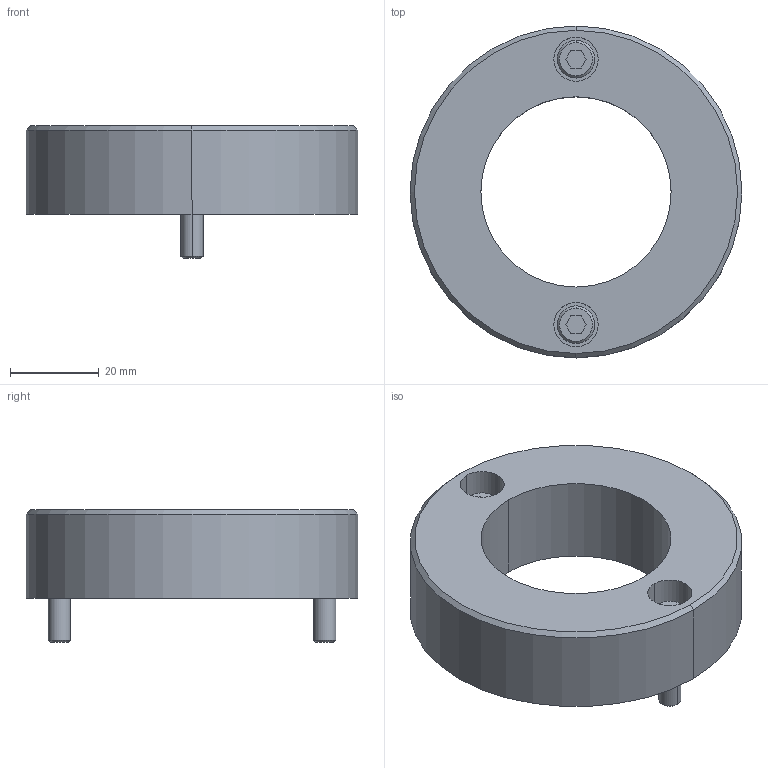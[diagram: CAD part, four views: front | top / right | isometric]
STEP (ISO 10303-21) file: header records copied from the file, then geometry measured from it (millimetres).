
FILE_DESCRIPTION((''),'2;1');
FILE_NAME('','2010-08-30T17:17:19+09:00',('misumi'),(''),'M/STEP i/f 1R2-14','CADmeister v5.1','');
FILE_SCHEMA(('AUTOMOTIVE_DESIGN'));
Length unit declared in the file: millimetre
Products named in the file (1): GEB38-20-R
Bounding box: 75 x 75 x 30 mm (x, y, z)
Volume: 58426.3 mm3; surface area: 15251.9 mm2
Topology: 3 solids, 3 shells, 54 faces, 116 edges, 74 vertices
Faces by surface type: plane 24, cylinder 20, cone 10
Entity records: 1592 total; most frequent: DIRECTION 276, CARTESIAN_POINT 245, ORIENTED_EDGE 232, EDGE_CURVE 116, AXIS2_PLACEMENT_3D 105, VERTEX_POINT 74, LINE 66, VECTOR 66
